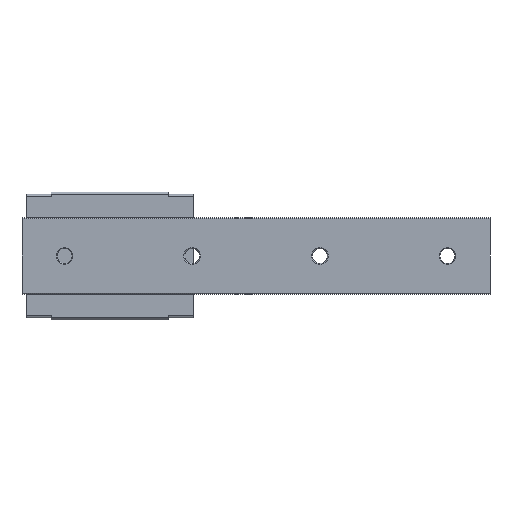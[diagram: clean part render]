
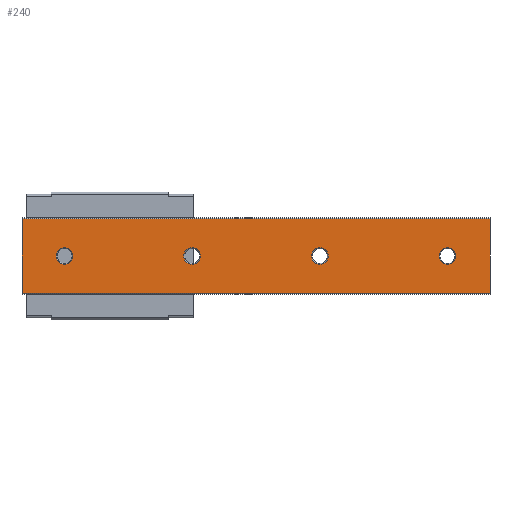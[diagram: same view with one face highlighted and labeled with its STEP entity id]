
A CAD part, front view. The second image highlights one B-rep face of the part: STEP entity #240.
In plain terms, the highlighted planar face has unit normal (0, -1, 0).
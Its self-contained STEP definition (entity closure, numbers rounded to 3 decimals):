
#240 = ADVANCED_FACE( '', ( #542, #543, #544, #545, #546 ), #547, .F. );
#542 = FACE_BOUND( '', #930, .T. );
#543 = FACE_BOUND( '', #931, .T. );
#544 = FACE_BOUND( '', #932, .T. );
#545 = FACE_BOUND( '', #933, .T. );
#546 = FACE_OUTER_BOUND( '', #934, .T. );
#547 = PLANE( '', #935 );
#930 = EDGE_LOOP( '', ( #1466 ) );
#931 = EDGE_LOOP( '', ( #1467 ) );
#932 = EDGE_LOOP( '', ( #1468 ) );
#933 = EDGE_LOOP( '', ( #1469 ) );
#934 = EDGE_LOOP( '', ( #1470, #1471, #1472, #1473 ) );
#935 = AXIS2_PLACEMENT_3D( '', #1474, #1475, #1476 );
#1466 = ORIENTED_EDGE( '', *, *, #2244, .F. );
#1467 = ORIENTED_EDGE( '', *, *, #2286, .F. );
#1468 = ORIENTED_EDGE( '', *, *, #2164, .F. );
#1469 = ORIENTED_EDGE( '', *, *, #2287, .F. );
#1470 = ORIENTED_EDGE( '', *, *, #2288, .T. );
#1471 = ORIENTED_EDGE( '', *, *, #2289, .F. );
#1472 = ORIENTED_EDGE( '', *, *, #2290, .F. );
#1473 = ORIENTED_EDGE( '', *, *, #2143, .T. );
#1474 = CARTESIAN_POINT( '', ( 110., 0., 8.7 ) );
#1475 = DIRECTION( '', ( 0., 1., 0. ) );
#1476 = DIRECTION( '', ( 0., 0., 1. ) );
#2143 = EDGE_CURVE( '', #2509, #2507, #2510, .T. );
#2164 = EDGE_CURVE( '', #2543, #2543, #2544, .T. );
#2244 = EDGE_CURVE( '', #2682, #2682, #2683, .T. );
#2286 = EDGE_CURVE( '', #2748, #2748, #2749, .T. );
#2287 = EDGE_CURVE( '', #2750, #2750, #2751, .T. );
#2288 = EDGE_CURVE( '', #2507, #2752, #2753, .T. );
#2289 = EDGE_CURVE( '', #2754, #2752, #2755, .T. );
#2290 = EDGE_CURVE( '', #2509, #2754, #2756, .T. );
#2507 = VERTEX_POINT( '', #3051 );
#2509 = VERTEX_POINT( '', #3054 );
#2510 = LINE( '', #3055, #3056 );
#2543 = VERTEX_POINT( '', #3098 );
#2544 = CIRCLE( '', #3099, 1.955 );
#2682 = VERTEX_POINT( '', #3287 );
#2683 = CIRCLE( '', #3288, 1.955 );
#2748 = VERTEX_POINT( '', #3374 );
#2749 = CIRCLE( '', #3375, 1.955 );
#2750 = VERTEX_POINT( '', #3376 );
#2751 = CIRCLE( '', #3377, 1.955 );
#2752 = VERTEX_POINT( '', #3378 );
#2753 = LINE( '', #3379, #3380 );
#2754 = VERTEX_POINT( '', #3381 );
#2755 = LINE( '', #3382, #3383 );
#2756 = LINE( '', #3384, #3385 );
#3051 = CARTESIAN_POINT( '', ( 0., 0., 8.7 ) );
#3054 = CARTESIAN_POINT( '', ( 110., 0., 8.7 ) );
#3055 = CARTESIAN_POINT( '', ( 110., 0., 8.7 ) );
#3056 = VECTOR( '', #3751, 1000. );
#3098 = CARTESIAN_POINT( '', ( 100., 0., -1.955 ) );
#3099 = AXIS2_PLACEMENT_3D( '', #3776, #3777, #3778 );
#3287 = CARTESIAN_POINT( '', ( 10., 0., -1.955 ) );
#3288 = AXIS2_PLACEMENT_3D( '', #3865, #3866, #3867 );
#3374 = CARTESIAN_POINT( '', ( 70., 0., -1.955 ) );
#3375 = AXIS2_PLACEMENT_3D( '', #3925, #3926, #3927 );
#3376 = CARTESIAN_POINT( '', ( 40., 0., -1.955 ) );
#3377 = AXIS2_PLACEMENT_3D( '', #3928, #3929, #3930 );
#3378 = CARTESIAN_POINT( '', ( 0., 0., -8.7 ) );
#3379 = CARTESIAN_POINT( '', ( 0., 0., 8.7 ) );
#3380 = VECTOR( '', #3931, 1000. );
#3381 = CARTESIAN_POINT( '', ( 110., 0., -8.7 ) );
#3382 = CARTESIAN_POINT( '', ( 110., 0., -8.7 ) );
#3383 = VECTOR( '', #3932, 1000. );
#3384 = CARTESIAN_POINT( '', ( 110., 0., 8.7 ) );
#3385 = VECTOR( '', #3933, 1000. );
#3751 = DIRECTION( '', ( -1., 0., 0. ) );
#3776 = CARTESIAN_POINT( '', ( 100., 0., 0. ) );
#3777 = DIRECTION( '', ( 0., -1., 0. ) );
#3778 = DIRECTION( '', ( 0., 0., -1. ) );
#3865 = CARTESIAN_POINT( '', ( 10., 0., 0. ) );
#3866 = DIRECTION( '', ( 0., -1., 0. ) );
#3867 = DIRECTION( '', ( 0., 0., -1. ) );
#3925 = CARTESIAN_POINT( '', ( 70., 0., 0. ) );
#3926 = DIRECTION( '', ( 0., -1., 0. ) );
#3927 = DIRECTION( '', ( 0., 0., -1. ) );
#3928 = CARTESIAN_POINT( '', ( 40., 0., 0. ) );
#3929 = DIRECTION( '', ( 0., -1., 0. ) );
#3930 = DIRECTION( '', ( 0., 0., -1. ) );
#3931 = DIRECTION( '', ( 0., 0., -1. ) );
#3932 = DIRECTION( '', ( -1., 0., 0. ) );
#3933 = DIRECTION( '', ( 0., 0., -1. ) );
